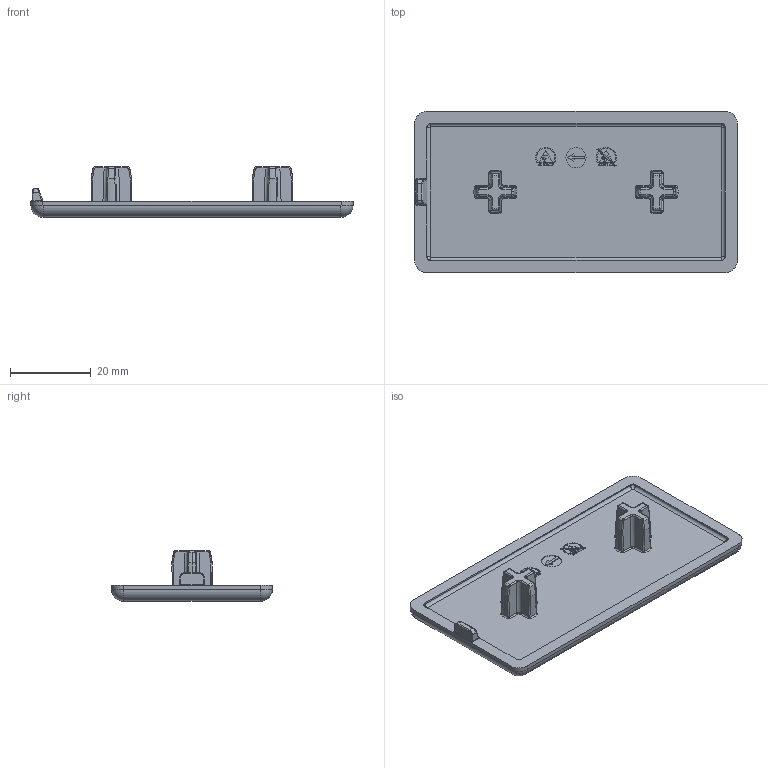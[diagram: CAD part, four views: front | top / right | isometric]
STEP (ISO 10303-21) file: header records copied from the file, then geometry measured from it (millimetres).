
FILE_DESCRIPTION (( 'STEP AP214' ), '1' );
FILE_NAME ('091193S02.step', '2015-12-15T14:06:40', ( '' ), ( '' ), 'SwSTEP 2.0', 'SolidWorks 2015', '' );
FILE_SCHEMA (( 'AUTOMOTIVE_DESIGN' ));
Length unit declared in the file: millimetre
Products named in the file (1): 091193S02
Bounding box: 80 x 40 x 12.5 mm (x, y, z)
Volume: 10618.8 mm3; surface area: 7867.6 mm2
Topology: 1 solids, 1 shells, 483 faces, 1260 edges, 796 vertices
Faces by surface type: plane 243, bspline 115, cylinder 91, torus 20, cone 10, sphere 4
Entity records: 16007 total; most frequent: CARTESIAN_POINT 5097, ORIENTED_EDGE 2520, DIRECTION 1959, EDGE_CURVE 1260, VERTEX_POINT 796, VECTOR 751, LINE 751, AXIS2_PLACEMENT_3D 604
